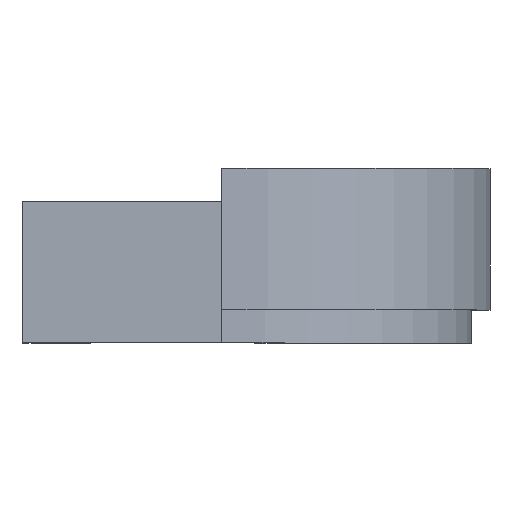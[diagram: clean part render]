
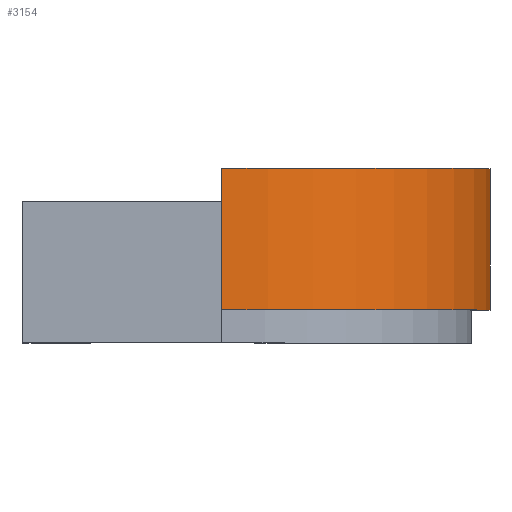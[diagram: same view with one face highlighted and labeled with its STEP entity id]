
A CAD part, top view. The second image highlights one B-rep face of the part: STEP entity #3154.
In plain terms, the highlighted cylindrical face has radius 1638.3 mm (diameter 3276.6 mm), a partial arc.
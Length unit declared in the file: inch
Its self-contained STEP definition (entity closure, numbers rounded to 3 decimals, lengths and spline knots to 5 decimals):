
#92=CYLINDRICAL_SURFACE('',#3515,64.5);
#110=CIRCLE('',#3499,64.5);
#118=CIRCLE('',#3516,64.5);
#703=FACE_OUTER_BOUND('',#877,.T.);
#877=EDGE_LOOP('',(#2533,#2534,#2535,#2536));
#1102=LINE('',#4792,#1428);
#1111=LINE('',#4821,#1437);
#1428=VECTOR('',#3955,0.3937);
#1437=VECTOR('',#3988,0.3937);
#1720=VERTEX_POINT('',#4776);
#1721=VERTEX_POINT('',#4778);
#1726=VERTEX_POINT('',#4790);
#1734=VERTEX_POINT('',#4820);
#2001=EDGE_CURVE('',#1720,#1721,#110,.T.);
#2008=EDGE_CURVE('',#1726,#1720,#1102,.T.);
#2022=EDGE_CURVE('',#1734,#1721,#1111,.T.);
#2024=EDGE_CURVE('',#1734,#1726,#118,.T.);
#2533=ORIENTED_EDGE('',*,*,#2008,.F.);
#2534=ORIENTED_EDGE('',*,*,#2024,.F.);
#2535=ORIENTED_EDGE('',*,*,#2022,.T.);
#2536=ORIENTED_EDGE('',*,*,#2001,.F.);
#3154=ADVANCED_FACE('',(#703),#92,.T.);
#3499=AXIS2_PLACEMENT_3D('',#4779,#3943,#3944);
#3515=AXIS2_PLACEMENT_3D('',#4823,#3990,#3991);
#3516=AXIS2_PLACEMENT_3D('',#4824,#3992,#3993);
#3943=DIRECTION('center_axis',(0.,-1.,0.));
#3944=DIRECTION('ref_axis',(1.,0.,0.));
#3955=DIRECTION('',(0.,-1.,0.));
#3988=DIRECTION('',(0.,-1.,0.));
#3990=DIRECTION('center_axis',(0.,-1.,0.));
#3991=DIRECTION('ref_axis',(0.,0.,1.));
#3992=DIRECTION('center_axis',(0.,1.,0.));
#3993=DIRECTION('ref_axis',(0.,0.,1.));
#4776=CARTESIAN_POINT('',(112.5,8.,-60.));
#4778=CARTESIAN_POINT('',(48.,8.,4.5));
#4779=CARTESIAN_POINT('Origin',(48.,8.,-60.));
#4790=CARTESIAN_POINT('',(112.5,42.,-60.));
#4792=CARTESIAN_POINT('',(112.5,42.,-60.));
#4820=CARTESIAN_POINT('',(48.,42.,4.5));
#4821=CARTESIAN_POINT('',(48.,42.,4.5));
#4823=CARTESIAN_POINT('Origin',(48.,42.,-60.));
#4824=CARTESIAN_POINT('Origin',(48.,42.,-60.));
